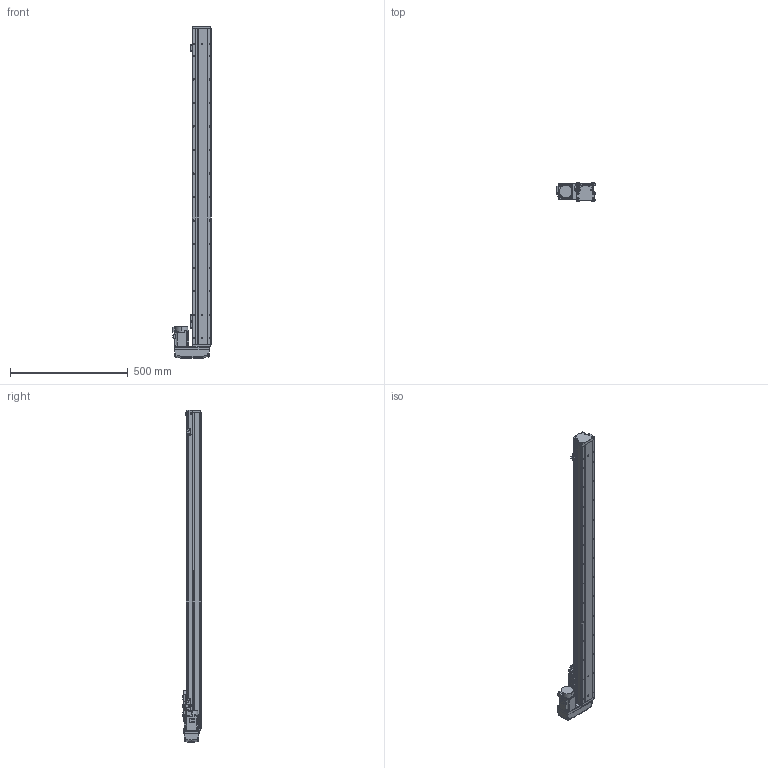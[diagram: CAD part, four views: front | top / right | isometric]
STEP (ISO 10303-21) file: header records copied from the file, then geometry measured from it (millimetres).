
FILE_DESCRIPTION (( 'STEP AP203' ), '1' );
FILE_NAME ('GTH8-1150-BL-M20-C4.step', '2023-08-28T00:55:33', ( '微软用户' ), ( '微软中国' ), 'SwSTEP 2.0', 'SolidWorks 2020', '' );
FILE_SCHEMA (( 'CONFIG_CONTROL_DESIGN' ));
Length unit declared in the file: millimetre
Products named in the file (18): GTH50-024; GTH80-013; GTH50-023; BTH-M3X5X6; GBT 70.3-M3℅6; GBT96.1-2002 3×0.8; CTHA86-015-1_CTHA86-015-2; GTH80-022; GTH80-001_1150; CTHA86-033_M40B; GBT 70.1-M3℅6; GTH80-003; 三菱伺服电机[HG-KN23J-S100]; GBT 70.1-M4×16; GTH80-004; GTH8-1150-BL-M20-C4; GTH80-028; GTH80-006
Assembly tree (57 placements, depth 2):
  GTH8-1150-BL-M20-C4
    GTH80-001_1150
    GTH80-003
    GTH80-004
    GTH80-006
    GTH80-013
    GBT 70.3-M3℅6  x4
    GTH80-022
    GBT 70.1-M3℅6  x14
    GBT 70.1-M4×16  x8
    GTH80-028  x2
    GTH50-024  x3
    GTH50-023  x3
    GBT96.1-2002 3×0.8  x6
    BTH-M3X5X6  x8
    CTHA86-015-1_CTHA86-015-2
    CTHA86-033_M40B
    三菱伺服电机[HG-KN23J-S100]
Bounding box: 164.8 x 78 x 1411 mm (x, y, z)
Volume: 6717825.6 mm3; surface area: 642250.4 mm2
Topology: 59 solids, 59 shells, 2212 faces, 5161 edges, 3173 vertices
Faces by surface type: plane 1151, cylinder 627, cone 260, torus 158, bspline 8, sphere 8
Entity records: 42343 total; most frequent: CARTESIAN_POINT 9299, DIRECTION 6296, ORIENTED_EDGE 6140, EDGE_CURVE 3070, AXIS2_PLACEMENT_3D 2178, VERTEX_POINT 1948, VECTOR 1940, LINE 1940
